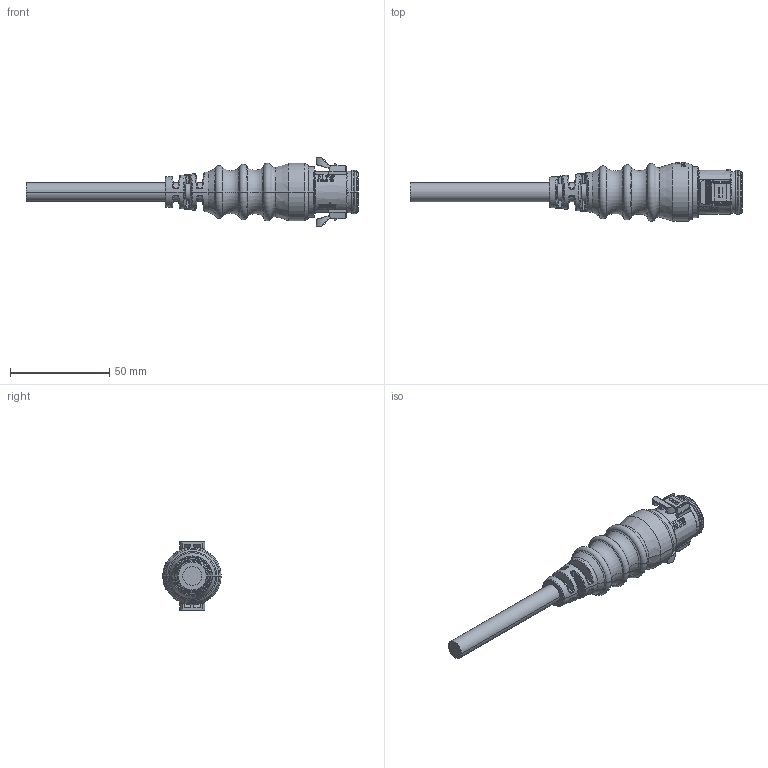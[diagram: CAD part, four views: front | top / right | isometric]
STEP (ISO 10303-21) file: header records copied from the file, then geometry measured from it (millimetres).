
FILE_DESCRIPTION((''),'2;1');
FILE_NAME('DD-XXAMFM-RL8DXX_SW0001','2021-11-02T',('K210213'),(''),'PRO/ENGINEER BY PARAMETRIC TECHNOLOGY CORPORATION, 2013050','PRO/ENGINEER BY PARAMETRIC TECHNOLOGY CORPORATION, 2013050','');
FILE_SCHEMA(('CONFIG_CONTROL_DESIGN'));
Products named in the file (1): DD-XXAMFM-RL8DXX_SW0001
Bounding box: 166.95 x 29.3 x 34.31 mm (x, y, z)
Volume: 43958.6 mm3; surface area: 14070.1 mm2
Topology: 1 solids, 1 shells, 1068 faces, 2848 edges, 1846 vertices
Faces by surface type: plane 368, extrusion 368, cylinder 141, bspline 84, cone 54, torus 47, sphere 6
Entity records: 66809 total; most frequent: CARTESIAN_POINT 42609, ORIENTED_EDGE 5696, DIRECTION 3653, EDGE_CURVE 2848, VERTEX_POINT 1846, B_SPLINE_CURVE_WITH_KNOTS 1666, VECTOR 1415, EDGE_LOOP 1132
